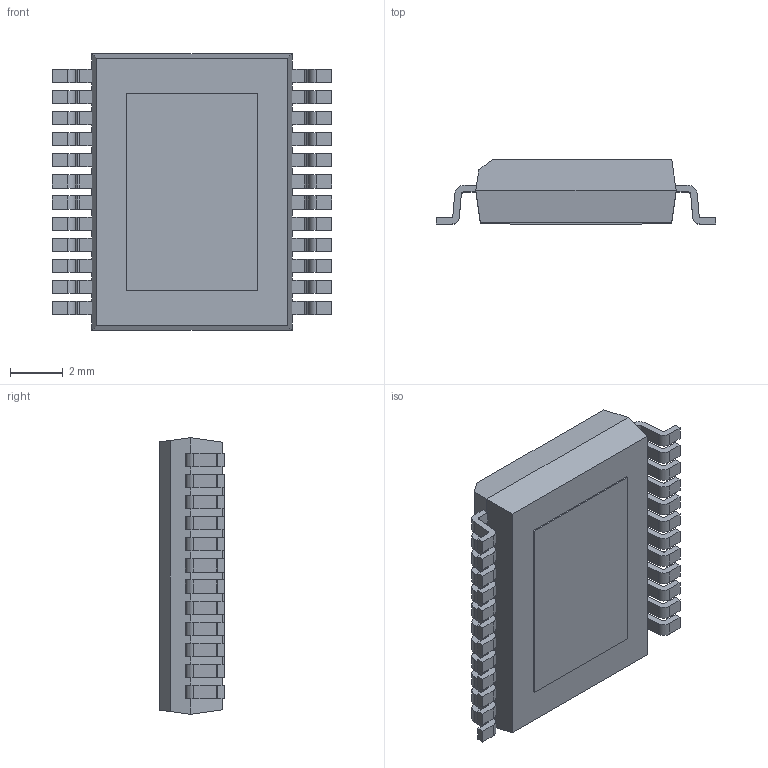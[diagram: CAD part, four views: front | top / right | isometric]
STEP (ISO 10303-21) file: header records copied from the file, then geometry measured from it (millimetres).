
FILE_DESCRIPTION (( 'STEP AP214' ), '1' );
FILE_NAME ('SOP80P1040X245_HS1-24_MO-271.BA.STEP', '2014-10-29T14:23:26', ( 'Tester2' ), ( '' ), 'SwSTEP 2.0', 'SolidWorks 2012', '' );
FILE_SCHEMA (( 'AUTOMOTIVE_DESIGN' ));
Length unit declared in the file: millimetre
Products named in the file (1): SOP80P1040X245_HS1-24_MO-271.BA
Bounding box: 10.6 x 2.45 x 10.5 mm (x, y, z)
Volume: 192.7 mm3; surface area: 322.6 mm2
Topology: 1 solids, 1 shells, 331 faces, 977 edges, 650 vertices
Faces by surface type: plane 233, cylinder 98
Entity records: 14549 total; most frequent: CARTESIAN_POINT 1959, ORIENTED_EDGE 1954, DIRECTION 1837, EDGE_CURVE 977, VECTOR 781, LINE 781, VERTEX_POINT 650, AXIS2_PLACEMENT_3D 528
